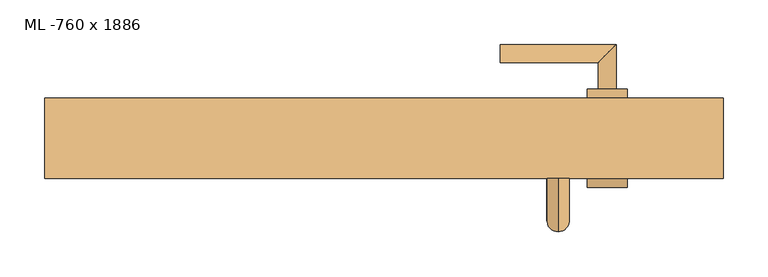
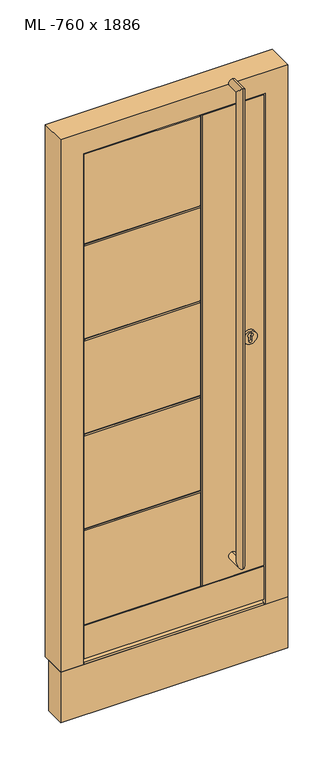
"""IFC4 building model written with IfcOpenShell, lengths in millimetres: door geometry, TU DF 1 - Haustüre : ML -760 x 1886."""

from ifc_helpers import new_model, si_unit, point, frame, frame_2d, origin, place, context, project, spatial, polyline, circle_curve, ellipse_curve, trimmed, segment, composite_curve, outline, extrude, faceted_brep, source, transform, mapped, element, save
from ifc_brep_helpers import plane_surface, cylinder_surface, revolved_surface, advanced_brep


def ml_760_x_1886_faf6ffda(model_context):
    return source(origin(), model_context, "Body", "SolidModel", [
        advanced_brep(
        [(195.0, -230.0, 1875.0), (195.0, -230.0, 1900.0), (195.0, -230.0, 225.0), (195.0, -230.0, 200.0), (195.0, -265.0, 225.0), (195.0, -290.0, 200.0), (195.0, -290.0, 1900.0), (195.0, -265.0, 1875.0)],
        [
            (0, 1, circle_curve(frame((195.0, -230.0, 1887.5), z_axis=(0.0, 1.0, 0.0), x_axis=(0.0, 0.0, 1.0)), 12.5)),
            (1, 0, circle_curve(frame((195.0, -230.0, 1887.5), z_axis=(0.0, 1.0, 0.0), x_axis=(0.0, 0.0, 1.0)), 12.5)),
            (2, 3, circle_curve(frame((195.0, -230.0, 212.5), z_axis=(0.0, 1.0, 0.0), x_axis=(0.0, 0.0, -1.0)), 12.5)),
            (3, 2, circle_curve(frame((195.0, -230.0, 212.5), z_axis=(0.0, 1.0, 0.0), x_axis=(0.0, 0.0, -1.0)), 12.5)),
            (4, 5, ellipse_curve(frame((195.0, -277.5, 212.5), z_axis=(0.0, 0.7071067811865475, -0.7071067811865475), x_axis=(0.0, -0.7071067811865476, -0.7071067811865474)), 17.6776695, 12.5)),
            (5, 3),
            (2, 4),
            (5, 4, ellipse_curve(frame((195.0, -277.5, 212.5), z_axis=(0.0, 0.7071067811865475, -0.7071067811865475), x_axis=(0.0, -0.7071067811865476, -0.7071067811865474)), 17.6776695, 12.5)),
            (6, 7, ellipse_curve(frame((195.0, -277.5, 1887.5), z_axis=(0.0, -0.7071067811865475, -0.7071067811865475), x_axis=(0.0, -0.7071067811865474, 0.7071067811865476)), 17.6776695, 12.5)),
            (7, 4),
            (5, 6),
            (7, 6, ellipse_curve(frame((195.0, -277.5, 1887.5), z_axis=(0.0, -0.7071067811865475, -0.7071067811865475), x_axis=(0.0, -0.7071067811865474, 0.7071067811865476)), 17.6776695, 12.5)),
            (0, 7),
            (6, 1),
        ],
        [
            plane_surface(frame((195.0, -230.0, 1900.0), z_axis=(0.0, 1.0, 0.0), x_axis=(-1.0, 0.0, 0.0))),
            plane_surface(frame((195.0, -230.0, 200.0), z_axis=(0.0, 1.0, 0.0), x_axis=(-1.0, 0.0, 0.0))),
            cylinder_surface(frame((195.0, -290.0, 212.5), z_axis=(0.0, -1.0, 0.0), x_axis=(0.0, 0.0, -1.0)), 12.5),
            cylinder_surface(frame((195.0, -277.5, 1900.0), z_axis=(0.0, 0.0, 1.0), x_axis=(0.0, -1.0, 0.0)), 12.5),
            cylinder_surface(frame((195.0, -230.0, 1887.5), z_axis=(0.0, 1.0, 0.0), x_axis=(0.0, 0.0, 1.0)), 12.5),
        ],
        [
            (0, [[1, 2]]),
            (1, [[3, 4]]),
            (2, [[5, 6, -3, 7]]),
            (2, [[8, -7, -4, -6]]),
            (3, [[9, 10, -8, 11]]),
            (3, [[12, -11, -5, -10]]),
            (4, [[-1, 13, -9, 14]]),
            (4, [[-2, -14, -12, -13]]),
        ],
    ),
        advanced_brep(
        [(272.5, -230.0, 970.0), (227.5, -230.0, 970.0), (272.5, -240.0, 970.0), (227.5, -240.0, 970.0), (255.0, -240.0, 958.5), (245.0, -240.0, 958.5), (245.0, -240.0, 971.1261365), (255.0, -240.0, 971.1261365), (255.0, -232.0, 971.1261365), (255.0, -232.0, 958.5), (245.0, -232.0, 971.1261365), (245.0, -232.0, 958.5)],
        [
            (0, 1, circle_curve(frame((250.0, -230.0, 970.0), z_axis=(0.0, 1.0, 0.0), x_axis=(-1.0, 0.0, 0.0)), 22.5)),
            (1, 0, circle_curve(frame((250.0, -230.0, 970.0), z_axis=(0.0, 1.0, 0.0), x_axis=(-1.0, 0.0, 0.0)), 22.5)),
            (2, 3, circle_curve(frame((250.0, -240.0, 970.0), z_axis=(0.0, -1.0, 0.0), x_axis=(-1.0, 0.0, 0.0)), 22.5)),
            (3, 2, circle_curve(frame((250.0, -240.0, 970.0), z_axis=(0.0, -1.0, 0.0), x_axis=(-1.0, 0.0, 0.0)), 22.5)),
            (4, 5, circle_curve(frame((250.0, -240.0, 958.5), z_axis=(0.0, 1.0, 0.0), x_axis=(-1.0, 0.0, 0.0)), 5.0)),
            (5, 6),
            (6, 7, circle_curve(frame((250.0, -240.0, 978.0), z_axis=(0.0, 1.0, 0.0), x_axis=(-1.0, 0.0, 0.0)), 8.5)),
            (7, 4),
            (0, 2),
            (3, 1),
            (7, 8),
            (8, 9),
            (9, 4),
            (6, 10),
            (10, 8, circle_curve(frame((250.0, -232.0, 978.0), z_axis=(0.0, 1.0, 0.0), x_axis=(-1.0, 0.0, 0.0)), 8.5)),
            (5, 11),
            (11, 10),
            (9, 11, circle_curve(frame((250.0, -232.0, 958.5), z_axis=(0.0, 1.0, 0.0), x_axis=(-1.0, 0.0, 0.0)), 5.0)),
        ],
        [
            plane_surface(frame((227.5, -230.0, 970.0), z_axis=(0.0, 1.0, 0.0), x_axis=(0.0, 0.0, 1.0))),
            plane_surface(frame((227.5, -240.0, 970.0), z_axis=(0.0, -1.0, 0.0), x_axis=(0.0, 0.0, -1.0))),
            cylinder_surface(frame((250.0, -240.0, 970.0), z_axis=(0.0, 1.0, 0.0), x_axis=(-1.0, 0.0, 0.0)), 22.5),
            plane_surface(frame((255.0, -230.0, 958.5), z_axis=(-1.0, 0.0, 0.0), x_axis=(0.0, -1.0, 0.0))),
            revolved_surface(polyline([(241.5, -240.0, 978.0), (241.5, -232.0, 978.0)]), (250.0, -230.0, 978.0), (0.0, -1.0, 0.0)),
            plane_surface(frame((245.0, -230.0, 971.1261365), z_axis=(1.0, 0.0, 0.0), x_axis=(0.0, -1.0, 0.0))),
            revolved_surface(polyline([(245.0, -240.0, 958.5), (245.0, -232.0, 958.5)]), (250.0, -230.0, 958.5), (0.0, -1.0, 0.0)),
            plane_surface(frame((241.5, -232.0, 978.0), z_axis=(0.0, -1.0, 0.0), x_axis=(0.0, 0.0, -1.0))),
        ],
        [
            (0, [[1, 2]]),
            (1, [[3, 4], [5, 6, 7, 8]]),
            (2, [[-1, 9, -4, 10]]),
            (2, [[-2, -10, -3, -9]]),
            (3, [[-8, 11, 12, 13]]),
            (4, [[-7, 14, 15, -11]]),
            (5, [[-6, 16, 17, -14]]),
            (6, [[-5, -13, 18, -16]]),
            (7, [[-12, -15, -17, -18]]),
        ],
    ),
        advanced_brep(
        [(87.0, -140.0, 480.2), (-331.0, -140.0, 480.2), (-331.0, -140.0, 808.4), (87.0, -140.0, 808.4), (87.0, -140.0, 816.4), (-331.0, -140.0, 816.4), (-331.0, -140.0, 1144.6), (87.0, -140.0, 1144.6), (331.0, -140.0, 1836.0), (331.0, -140.0, 8.0), (95.0, -140.0, 8.0), (95.0, -140.0, 1836.0), (87.0, -140.0, 1152.6), (-331.0, -140.0, 1152.6), (-331.0, -140.0, 1480.8), (87.0, -140.0, 1480.8), (-331.0, -140.0, 8.0), (-331.0, -140.0, 136.0), (87.0, -140.0, 136.0), (87.0, -140.0, 8.0), (-331.0, -140.0, 144.0), (-331.0, -140.0, 472.2), (87.0, -140.0, 472.2), (87.0, -140.0, 144.0), (-331.0, -140.0, 1836.0), (87.0, -140.0, 1836.0), (87.0, -140.0, 1488.8), (-331.0, -140.0, 1488.8), (331.0, -160.0, 1836.0), (331.0, -160.0, 8.0), (-331.0, -160.0, 1836.0), (-331.0, -160.0, 8.0), (-316.0, -160.0, 1821.0), (316.0, -160.0, 1821.0), (316.0, -160.0, 20.0), (-316.0, -160.0, 20.0), (316.0, -210.0, 1821.0), (316.0, -210.0, 20.0), (-316.0, -210.0, 1821.0), (-316.0, -210.0, 20.0), (-301.0, -210.0, 1806.0), (301.0, -210.0, 1806.0), (301.0, -210.0, 140.0), (-301.0, -210.0, 140.0), (301.0, -230.0, 1806.0), (301.0, -230.0, 140.0), (-301.0, -230.0, 480.2), (87.0, -230.0, 480.2), (87.0, -230.0, 808.4), (-301.0, -230.0, 808.4), (-301.0, -230.0, 816.4), (87.0, -230.0, 816.4), (87.0, -230.0, 1144.6), (-301.0, -230.0, 1144.6), (-301.0, -230.0, 1152.6), (87.0, -230.0, 1152.6), (87.0, -230.0, 1480.8), (-301.0, -230.0, 1480.8), (95.0, -230.0, 1806.0), (95.0, -230.0, 140.0), (-301.0, -230.0, 472.2), (-301.0, -230.0, 140.0), (87.0, -230.0, 140.0), (87.0, -230.0, 472.2), (87.0, -230.0, 1806.0), (-301.0, -230.0, 1806.0), (-301.0, -230.0, 1488.8), (87.0, -230.0, 1488.8), (-301.0, -226.0, 476.2), (-301.0, -226.0, 812.4), (-301.0, -226.0, 1148.6), (-301.0, -226.0, 1484.8), (-331.0, -144.0, 1484.8), (-331.0, -144.0, 1148.6), (-331.0, -144.0, 812.4), (-331.0, -144.0, 476.2), (-331.0, -144.0, 140.0), (91.0, -144.0, 1836.0), (91.0, -226.0, 1806.0), (91.0, -144.0, 8.0), (91.0, -226.0, 140.0), (91.0, -226.0, 476.2), (91.0, -144.0, 476.2), (91.0, -144.0, 140.0), (91.0, -226.0, 1484.8), (91.0, -226.0, 1148.6), (91.0, -226.0, 812.4), (91.0, -144.0, 812.4), (91.0, -144.0, 1148.6), (91.0, -144.0, 1484.8)],
        [
            (0, 1),
            (1, 2),
            (2, 3),
            (3, 0),
            (4, 5),
            (5, 6),
            (6, 7),
            (7, 4),
            (8, 9),
            (9, 10),
            (10, 11),
            (11, 8),
            (12, 13),
            (13, 14),
            (14, 15),
            (15, 12),
            (16, 17),
            (17, 18),
            (18, 19),
            (19, 16),
            (20, 21),
            (21, 22),
            (22, 23),
            (23, 20),
            (24, 25),
            (25, 26),
            (26, 27),
            (27, 24),
            (8, 28),
            (28, 29),
            (29, 9),
            (28, 30),
            (30, 31),
            (31, 29),
            (32, 33),
            (33, 34),
            (34, 35),
            (35, 32),
            (33, 36),
            (36, 37),
            (37, 34),
            (36, 38),
            (38, 39),
            (39, 37),
            (40, 41),
            (41, 42),
            (42, 43),
            (43, 40),
            (41, 44),
            (44, 45),
            (45, 42),
            (46, 47),
            (47, 48),
            (48, 49),
            (49, 46),
            (50, 51),
            (51, 52),
            (52, 53),
            (53, 50),
            (54, 55),
            (55, 56),
            (56, 57),
            (57, 54),
            (44, 58),
            (58, 59),
            (59, 45),
            (60, 61),
            (61, 62),
            (62, 63),
            (63, 60),
            (64, 65),
            (65, 66),
            (66, 67),
            (67, 64),
            (65, 40),
            (43, 61),
            (60, 68, circle_curve(frame((-301.0, -226.0, 472.2), z_axis=(-1.0, 0.0, 0.0), x_axis=(0.0, -1.0, 0.0)), 4.0)),
            (68, 46, circle_curve(frame((-301.0, -226.0, 480.2), z_axis=(-1.0, 0.0, 0.0), x_axis=(0.0, -1.0, 0.0)), 4.0)),
            (49, 69, circle_curve(frame((-301.0, -226.0, 808.4), z_axis=(-1.0, 0.0, 0.0), x_axis=(0.0, -1.0, 0.0)), 4.0)),
            (69, 50, circle_curve(frame((-301.0, -226.0, 816.4), z_axis=(-1.0, 0.0, 0.0), x_axis=(0.0, -1.0, 0.0)), 4.0)),
            (53, 70, circle_curve(frame((-301.0, -226.0, 1144.6), z_axis=(-1.0, 0.0, 0.0), x_axis=(0.0, -1.0, 0.0)), 4.0)),
            (70, 54, circle_curve(frame((-301.0, -226.0, 1152.6), z_axis=(-1.0, 0.0, 0.0), x_axis=(0.0, -1.0, 0.0)), 4.0)),
            (57, 71, circle_curve(frame((-301.0, -226.0, 1480.8), z_axis=(-1.0, 0.0, 0.0), x_axis=(0.0, -1.0, 0.0)), 4.0)),
            (71, 66, circle_curve(frame((-301.0, -226.0, 1488.8), z_axis=(-1.0, 0.0, 0.0), x_axis=(0.0, -1.0, 0.0)), 4.0)),
            (38, 32),
            (35, 39),
            (30, 24),
            (27, 72, circle_curve(frame((-331.0, -144.0, 1488.8), z_axis=(-1.0, 0.0, 0.0), x_axis=(0.0, 1.0, 0.0)), 4.0)),
            (72, 14, circle_curve(frame((-331.0, -144.0, 1480.8), z_axis=(-1.0, 0.0, 0.0), x_axis=(0.0, 1.0, 0.0)), 4.0)),
            (13, 73, circle_curve(frame((-331.0, -144.0, 1152.6), z_axis=(-1.0, 0.0, 0.0), x_axis=(0.0, 1.0, 0.0)), 4.0)),
            (73, 6, circle_curve(frame((-331.0, -144.0, 1144.6), z_axis=(-1.0, 0.0, 0.0), x_axis=(0.0, 1.0, 0.0)), 4.0)),
            (5, 74, circle_curve(frame((-331.0, -144.0, 816.4), z_axis=(-1.0, 0.0, 0.0), x_axis=(0.0, 1.0, 0.0)), 4.0)),
            (74, 2, circle_curve(frame((-331.0, -144.0, 808.4), z_axis=(-1.0, 0.0, 0.0), x_axis=(0.0, 1.0, 0.0)), 4.0)),
            (1, 75, circle_curve(frame((-331.0, -144.0, 480.2), z_axis=(-1.0, 0.0, 0.0), x_axis=(0.0, 1.0, 0.0)), 4.0)),
            (75, 21, circle_curve(frame((-331.0, -144.0, 472.2), z_axis=(-1.0, 0.0, 0.0), x_axis=(0.0, 1.0, 0.0)), 4.0)),
            (20, 76, circle_curve(frame((-331.0, -144.0, 144.0), z_axis=(-1.0, 0.0, 0.0), x_axis=(0.0, 1.0, 0.0)), 4.0)),
            (76, 17, circle_curve(frame((-331.0, -144.0, 136.0), z_axis=(-1.0, 0.0, 0.0), x_axis=(0.0, 1.0, 0.0)), 4.0)),
            (16, 31),
            (11, 77, circle_curve(frame((95.0, -144.0, 1836.0), z_axis=(0.0, 0.0, 1.0), x_axis=(0.0, 1.0, 0.0)), 4.0)),
            (77, 25, circle_curve(frame((87.0, -144.0, 1836.0), z_axis=(0.0, 0.0, 1.0), x_axis=(0.0, 1.0, 0.0)), 4.0)),
            (64, 78, circle_curve(frame((87.0, -226.0, 1806.0), z_axis=(0.0, 0.0, 1.0), x_axis=(0.0, -1.0, 0.0)), 4.0)),
            (78, 58, circle_curve(frame((95.0, -226.0, 1806.0), z_axis=(0.0, 0.0, 1.0), x_axis=(0.0, -1.0, 0.0)), 4.0)),
            (19, 79, circle_curve(frame((87.0, -144.0, 8.0), z_axis=(0.0, 0.0, -1.0), x_axis=(0.0, 1.0, 0.0)), 4.0)),
            (79, 10, circle_curve(frame((95.0, -144.0, 8.0), z_axis=(0.0, 0.0, -1.0), x_axis=(0.0, 1.0, 0.0)), 4.0)),
            (59, 80, circle_curve(frame((95.0, -226.0, 140.0), z_axis=(0.0, 0.0, -1.0), x_axis=(0.0, -1.0, 0.0)), 4.0)),
            (80, 62, circle_curve(frame((87.0, -226.0, 140.0), z_axis=(0.0, 0.0, -1.0), x_axis=(0.0, -1.0, 0.0)), 4.0)),
            (81, 68),
            (63, 81, ellipse_curve(frame((87.0, -226.0, 472.2), z_axis=(-0.7071067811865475, 0.0, 0.7071067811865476), x_axis=(-0.7071067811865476, 0.0, -0.7071067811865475)), 5.6568542, 4.0)),
            (81, 47, ellipse_curve(frame((87.0, -226.0, 480.2), z_axis=(-0.7071067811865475, 0.0, -0.7071067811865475), x_axis=(-0.7071067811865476, 0.0, 0.7071067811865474)), 5.6568542, 4.0)),
            (75, 82),
            (82, 22, ellipse_curve(frame((87.0, -144.0, 472.2), z_axis=(-0.7071067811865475, 0.0, 0.7071067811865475), x_axis=(0.7071067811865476, 0.0, 0.7071067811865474)), 5.6568542, 4.0)),
            (0, 82, ellipse_curve(frame((87.0, -144.0, 480.2), z_axis=(-0.7071067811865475, 0.0, -0.7071067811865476), x_axis=(0.7071067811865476, 0.0, -0.7071067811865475)), 5.6568542, 4.0)),
            (76, 83),
            (83, 18, ellipse_curve(frame((87.0, -144.0, 136.0), z_axis=(-0.7071067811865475, 0.0, 0.7071067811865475), x_axis=(-0.7071067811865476, 0.0, -0.7071067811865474)), 5.6568542, 4.0)),
            (23, 83, ellipse_curve(frame((87.0, -144.0, 144.0), z_axis=(-0.7071067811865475, 0.0, -0.7071067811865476), x_axis=(-0.7071067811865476, 0.0, 0.7071067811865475)), 5.6568542, 4.0)),
            (81, 80),
            (78, 84),
            (84, 85),
            (85, 86),
            (86, 81),
            (67, 84, ellipse_curve(frame((87.0, -226.0, 1488.8), z_axis=(0.7071067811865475, 0.0, 0.7071067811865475), x_axis=(-0.7071067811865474, 0.0, 0.7071067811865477)), 5.6568542, 4.0)),
            (86, 48, ellipse_curve(frame((87.0, -226.0, 808.4), z_axis=(0.7071067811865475, 0.0, -0.7071067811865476), x_axis=(0.7071067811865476, 0.0, 0.7071067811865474)), 5.6568542, 4.0)),
            (51, 86, ellipse_curve(frame((87.0, -226.0, 816.4), z_axis=(0.7071067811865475, 0.0, 0.7071067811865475), x_axis=(-0.7071067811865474, 0.0, 0.7071067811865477)), 5.6568542, 4.0)),
            (85, 52, ellipse_curve(frame((87.0, -226.0, 1144.6), z_axis=(0.7071067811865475, 0.0, -0.7071067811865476), x_axis=(0.7071067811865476, 0.0, 0.7071067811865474)), 5.6568542, 4.0)),
            (55, 85, ellipse_curve(frame((87.0, -226.0, 1152.6), z_axis=(0.7071067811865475, 0.0, 0.7071067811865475), x_axis=(-0.7071067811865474, 0.0, 0.7071067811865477)), 5.6568542, 4.0)),
            (84, 56, ellipse_curve(frame((87.0, -226.0, 1480.8), z_axis=(0.7071067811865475, 0.0, -0.7071067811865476), x_axis=(0.7071067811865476, 0.0, 0.7071067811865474)), 5.6568542, 4.0)),
            (86, 69),
            (83, 82),
            (82, 87),
            (87, 88),
            (88, 89),
            (89, 77),
            (79, 83),
            (89, 26, ellipse_curve(frame((87.0, -144.0, 1488.8), z_axis=(0.7071067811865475, 0.0, 0.7071067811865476), x_axis=(0.7071067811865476, 0.0, -0.7071067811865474)), 5.6568542, 4.0)),
            (3, 87, ellipse_curve(frame((87.0, -144.0, 808.4), z_axis=(0.7071067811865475, 0.0, -0.7071067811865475), x_axis=(-0.7071067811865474, 0.0, -0.7071067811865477)), 5.6568542, 4.0)),
            (87, 4, ellipse_curve(frame((87.0, -144.0, 816.4), z_axis=(0.7071067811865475, 0.0, 0.7071067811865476), x_axis=(0.7071067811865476, 0.0, -0.7071067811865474)), 5.6568542, 4.0)),
            (7, 88, ellipse_curve(frame((87.0, -144.0, 1144.6), z_axis=(0.7071067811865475, 0.0, -0.7071067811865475), x_axis=(-0.7071067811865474, 0.0, -0.7071067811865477)), 5.6568542, 4.0)),
            (88, 12, ellipse_curve(frame((87.0, -144.0, 1152.6), z_axis=(0.7071067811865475, 0.0, 0.7071067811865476), x_axis=(0.7071067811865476, 0.0, -0.7071067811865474)), 5.6568542, 4.0)),
            (15, 89, ellipse_curve(frame((87.0, -144.0, 1480.8), z_axis=(0.7071067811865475, 0.0, -0.7071067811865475), x_axis=(-0.7071067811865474, 0.0, -0.7071067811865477)), 5.6568542, 4.0)),
            (74, 87),
            (73, 88),
            (85, 70),
            (72, 89),
            (84, 71),
        ],
        [
            plane_surface(frame((331.0, -140.0, 1836.0), z_axis=(0.0, 1.0, 0.0), x_axis=(0.0, 0.0, -1.0))),
            plane_surface(frame((331.0, -230.0, 1836.0), z_axis=(1.0, 0.0, 0.0), x_axis=(0.0, 0.0, -1.0))),
            plane_surface(frame((316.0, -160.0, 0.0), z_axis=(0.0, -1.0, 0.0), x_axis=(0.0, 0.0, 1.0))),
            plane_surface(frame((316.0, -210.0, 0.0), z_axis=(1.0, 0.0, 0.0), x_axis=(0.0, 0.0, 1.0))),
            plane_surface(frame((301.0, -210.0, 0.0), z_axis=(0.0, -1.0, 0.0), x_axis=(0.0, 0.0, 1.0))),
            plane_surface(frame((301.0, -230.0, 0.0), z_axis=(1.0, 0.0, 0.0), x_axis=(0.0, 0.0, 1.0))),
            plane_surface(frame((-331.0, -230.0, 1836.0), z_axis=(0.0, -1.0, 0.0), x_axis=(0.0, 0.0, -1.0))),
            plane_surface(frame((-301.0, -230.0, 1806.0), z_axis=(-1.0, 0.0, 0.0), x_axis=(0.0, 0.0, -1.0))),
            plane_surface(frame((-316.0, -210.0, 1821.0), z_axis=(-1.0, 0.0, 0.0), x_axis=(0.0, 0.0, -1.0))),
            plane_surface(frame((-331.0, -140.0, 1836.0), z_axis=(-1.0, 0.0, 0.0), x_axis=(0.0, 0.0, -1.0))),
            plane_surface(frame((331.0, -230.0, 1836.0), z_axis=(0.0, 0.0, 1.0), x_axis=(1.0, 0.0, 0.0))),
            plane_surface(frame((301.0, -230.0, 1806.0), z_axis=(0.0, 0.0, 1.0), x_axis=(-1.0, 0.0, 0.0))),
            plane_surface(frame((316.0, -210.0, 1821.0), z_axis=(0.0, 0.0, 1.0), x_axis=(-1.0, 0.0, 0.0))),
            plane_surface(frame((-331.0, -230.0, 20.0), z_axis=(0.0, 0.0, -1.0), x_axis=(1.0, 0.0, 0.0))),
            plane_surface(frame((-331.0, -160.0, 8.0), z_axis=(0.0, 0.0, -1.0), x_axis=(1.0, 0.0, 0.0))),
            plane_surface(frame((-331.0, -230.0, 140.0), z_axis=(0.0, 0.0, -1.0), x_axis=(1.0, 0.0, 0.0))),
            cylinder_surface(frame((91.0, -226.0, 472.2), z_axis=(-1.0, 0.0, 0.0), x_axis=(0.0, -1.0, 0.0)), 4.0),
            cylinder_surface(frame((91.0, -226.0, 480.2), z_axis=(-1.0, 0.0, 0.0), x_axis=(0.0, -1.0, 0.0)), 4.0),
            cylinder_surface(frame((-371.0, -144.0, 472.2), z_axis=(1.0, 0.0, 0.0), x_axis=(0.0, 1.0, 0.0)), 4.0),
            cylinder_surface(frame((-371.0, -144.0, 480.2), z_axis=(1.0, 0.0, 0.0), x_axis=(0.0, 1.0, 0.0)), 4.0),
            cylinder_surface(frame((91.0, -144.0, 136.0), z_axis=(-1.0, 0.0, 0.0), x_axis=(0.0, 1.0, 0.0)), 4.0),
            cylinder_surface(frame((91.0, -144.0, 144.0), z_axis=(-1.0, 0.0, 0.0), x_axis=(0.0, 1.0, 0.0)), 4.0),
            cylinder_surface(frame((95.0, -226.0, -10.0), z_axis=(0.0, 0.0, 1.0), x_axis=(0.0, -1.0, 0.0)), 4.0),
            cylinder_surface(frame((87.0, -226.0, -10.0), z_axis=(0.0, 0.0, 1.0), x_axis=(0.0, -1.0, 0.0)), 4.0),
            cylinder_surface(frame((91.0, -226.0, 808.4), z_axis=(-1.0, 0.0, 0.0), x_axis=(0.0, -1.0, 0.0)), 4.0),
            cylinder_surface(frame((91.0, -226.0, 816.4), z_axis=(-1.0, 0.0, 0.0), x_axis=(0.0, -1.0, 0.0)), 4.0),
            cylinder_surface(frame((95.0, -144.0, 1846.0), z_axis=(0.0, 0.0, -1.0), x_axis=(0.0, 1.0, 0.0)), 4.0),
            cylinder_surface(frame((87.0, -144.0, 1846.0), z_axis=(0.0, 0.0, -1.0), x_axis=(0.0, 1.0, 0.0)), 4.0),
            cylinder_surface(frame((-371.0, -144.0, 808.4), z_axis=(1.0, 0.0, 0.0), x_axis=(0.0, 1.0, 0.0)), 4.0),
            cylinder_surface(frame((-371.0, -144.0, 816.4), z_axis=(1.0, 0.0, 0.0), x_axis=(0.0, 1.0, 0.0)), 4.0),
            cylinder_surface(frame((-371.0, -144.0, 1144.6), z_axis=(1.0, 0.0, 0.0), x_axis=(0.0, 1.0, 0.0)), 4.0),
            cylinder_surface(frame((-371.0, -144.0, 1152.6), z_axis=(1.0, 0.0, 0.0), x_axis=(0.0, 1.0, 0.0)), 4.0),
            cylinder_surface(frame((91.0, -226.0, 1144.6), z_axis=(-1.0, 0.0, 0.0), x_axis=(0.0, -1.0, 0.0)), 4.0),
            cylinder_surface(frame((91.0, -226.0, 1152.6), z_axis=(-1.0, 0.0, 0.0), x_axis=(0.0, -1.0, 0.0)), 4.0),
            cylinder_surface(frame((-371.0, -144.0, 1480.8), z_axis=(1.0, 0.0, 0.0), x_axis=(0.0, 1.0, 0.0)), 4.0),
            cylinder_surface(frame((-371.0, -144.0, 1488.8), z_axis=(1.0, 0.0, 0.0), x_axis=(0.0, 1.0, 0.0)), 4.0),
            cylinder_surface(frame((91.0, -226.0, 1480.8), z_axis=(-1.0, 0.0, 0.0), x_axis=(0.0, -1.0, 0.0)), 4.0),
            cylinder_surface(frame((91.0, -226.0, 1488.8), z_axis=(-1.0, 0.0, 0.0), x_axis=(0.0, -1.0, 0.0)), 4.0),
        ],
        [
            (0, [[1, 2, 3, 4]]),
            (0, [[5, 6, 7, 8]]),
            (0, [[9, 10, 11, 12]]),
            (0, [[13, 14, 15, 16]]),
            (0, [[17, 18, 19, 20]]),
            (0, [[21, 22, 23, 24]]),
            (0, [[25, 26, 27, 28]]),
            (1, [[29, 30, 31, -9]]),
            (2, [[32, 33, 34, -30], [35, 36, 37, 38]]),
            (3, [[39, 40, 41, -36]]),
            (4, [[42, 43, 44, -40], [45, 46, 47, 48]]),
            (5, [[49, 50, 51, -46]]),
            (6, [[52, 53, 54, 55]]),
            (6, [[56, 57, 58, 59]]),
            (6, [[60, 61, 62, 63]]),
            (6, [[-50, 64, 65, 66]]),
            (6, [[67, 68, 69, 70]]),
            (6, [[71, 72, 73, 74]]),
            (7, [[75, -48, 76, -67, 77, 78, -55, 79, 80, -59, 81, 82, -63, 83, 84, -72]]),
            (8, [[85, -38, 86, -43]]),
            (9, [[87, -28, 88, 89, -14, 90, 91, -6, 92, 93, -2, 94, 95, -21, 96, 97, -17, 98, -33]]),
            (10, [[-29, -12, 99, 100, -25, -87, -32]]),
            (11, [[-49, -45, -75, -71, 101, 102, -64]]),
            (12, [[-42, -39, -35, -85]]),
            (13, [[-37, -41, -44, -86]]),
            (14, [[-31, -34, -98, -20, 103, 104, -10]]),
            (15, [[-47, -51, -66, 105, 106, -68, -76]]),
            (16, [[107, -77, -70, 108]]),
            (17, [[-107, 109, -52, -78]]),
            (18, [[110, 111, -22, -95]]),
            (19, [[-110, -94, -1, 112]]),
            (20, [[113, 114, -18, -97]]),
            (21, [[-113, -96, -24, 115]]),
            (22, [[116, -105, -65, -102, 117, 118, 119, 120]]),
            (23, [[-101, -74, 121, -117]]),
            (23, [[-109, -120, 122, -53]]),
            (23, [[-116, -108, -69, -106]]),
            (23, [[123, -119, 124, -57]]),
            (23, [[125, -118, 126, -61]]),
            (24, [[127, -79, -54, -122]]),
            (25, [[-127, -123, -56, -80]]),
            (26, [[128, 129, 130, 131, 132, -99, -11, -104, 133]]),
            (27, [[-100, -132, 134, -26]]),
            (27, [[-112, -4, 135, -129]]),
            (27, [[-133, -103, -19, -114]]),
            (27, [[-128, -115, -23, -111]]),
            (27, [[136, -8, 137, -130]]),
            (27, [[138, -16, 139, -131]]),
            (28, [[140, -135, -3, -93]]),
            (29, [[-140, -92, -5, -136]]),
            (30, [[141, -137, -7, -91]]),
            (31, [[-141, -90, -13, -138]]),
            (32, [[142, -81, -58, -124]]),
            (33, [[-142, -125, -60, -82]]),
            (34, [[143, -139, -15, -89]]),
            (35, [[-143, -88, -27, -134]]),
            (36, [[144, -83, -62, -126]]),
            (37, [[-144, -121, -73, -84]]),
        ],
    ),
        extrude(outline(polyline([(-210.0, 140.0), (-210.0, 20.0), (-221.9609036, 20.0), (-221.9609036, 24.0), (-225.9609036, 24.0), (-225.9609036, 20.0), (-230.0, 20.0), (-230.0, 136.0), (-226.0, 136.0), (-226.0, 140.0), (-210.0, 140.0)])), frame((-301.0, 0.0, 0.0), z_axis=(1.0, 0.0, 0.0), x_axis=(0.0, 1.0, 0.0)), (0.0, 0.0, 1.0), 602.0),
        faceted_brep([(301.0, -210.0, 0.0), (301.0, -210.0, 9.0), (301.0, -230.0, 7.0), (301.0, -230.0, 0.0), (-301.0, -210.0, 0.0), (-301.0, -210.0, 9.0), (-316.0, -210.0, 9.0), (-316.0, -210.0, 0.0), (316.0, -210.0, 0.0), (316.0, -210.0, 9.0), (316.0, -160.0, 0.0), (316.0, -160.0, 15.0), (316.0, -180.0, 15.0), (316.0, -180.0, 12.0), (-301.0, -230.0, 0.0), (-301.0, -230.0, 7.0), (-316.0, -180.0, 12.0), (-316.0, -180.0, 15.0), (-316.0, -160.0, 15.0), (-316.0, -160.0, 0.0)], [[[0, 1, 2, 3]], [[4, 5, 6, 7]], [[1, 0, 8, 9]], [[9, 8, 10, 11, 12, 13]], [[5, 4, 14, 15]], [[7, 6, 16, 17, 18, 19]], [[18, 11, 10, 19]], [[19, 10, 8, 0, 3, 14, 4, 7]], [[14, 3, 2, 15]], [[11, 18, 17, 12]], [[15, 2, 1, 9, 13, 16, 6, 5]], [[12, 17, 16, 13]]]),
        advanced_brep(
        [(272.5, -140.0, 970.0), (227.5, -140.0, 970.0), (272.5, -130.0, 970.0), (227.5, -130.0, 970.0), (255.0, -130.0, 958.5), (255.0, -130.0, 971.1261365), (245.0, -130.0, 971.1261365), (245.0, -130.0, 958.5), (255.0, -138.0, 958.5), (255.0, -138.0, 971.1261365), (245.0, -138.0, 971.1261365), (245.0, -138.0, 958.5)],
        [
            (0, 1, circle_curve(frame((250.0, -140.0, 970.0), z_axis=(0.0, -1.0, 0.0), x_axis=(-1.0, 0.0, 0.0)), 22.5)),
            (1, 0, circle_curve(frame((250.0, -140.0, 970.0), z_axis=(0.0, -1.0, 0.0), x_axis=(-1.0, 0.0, 0.0)), 22.5)),
            (2, 3, circle_curve(frame((250.0, -130.0, 970.0), z_axis=(0.0, 1.0, 0.0), x_axis=(-1.0, 0.0, 0.0)), 22.5)),
            (3, 2, circle_curve(frame((250.0, -130.0, 970.0), z_axis=(0.0, 1.0, 0.0), x_axis=(-1.0, 0.0, 0.0)), 22.5)),
            (4, 5),
            (5, 6, circle_curve(frame((250.0, -130.0, 978.0), z_axis=(0.0, -1.0, 0.0), x_axis=(-1.0, 0.0, 0.0)), 8.5)),
            (6, 7),
            (7, 4, circle_curve(frame((250.0, -130.0, 958.5), z_axis=(0.0, -1.0, 0.0), x_axis=(-1.0, 0.0, 0.0)), 5.0)),
            (1, 3),
            (2, 0),
            (4, 8),
            (8, 9),
            (9, 5),
            (9, 10, circle_curve(frame((250.0, -138.0, 978.0), z_axis=(0.0, -1.0, 0.0), x_axis=(-1.0, 0.0, 0.0)), 8.5)),
            (10, 6),
            (10, 11),
            (11, 7),
            (11, 8, circle_curve(frame((250.0, -138.0, 958.5), z_axis=(0.0, -1.0, 0.0), x_axis=(-1.0, 0.0, 0.0)), 5.0)),
        ],
        [
            plane_surface(frame((227.5, -140.0, 970.0), z_axis=(0.0, -1.0, 0.0), x_axis=(0.0, 0.0, 1.0))),
            plane_surface(frame((227.5, -130.0, 970.0), z_axis=(0.0, 1.0, 0.0), x_axis=(0.0, 0.0, -1.0))),
            cylinder_surface(frame((250.0, -130.0, 970.0), z_axis=(0.0, -1.0, 0.0), x_axis=(-1.0, 0.0, 0.0)), 22.5),
            plane_surface(frame((255.0, -140.0, 958.5), z_axis=(-1.0, 0.0, 0.0), x_axis=(0.0, 1.0, 0.0))),
            revolved_surface(polyline([(241.5, -130.0, 978.0), (241.5, -138.0, 978.0)]), (250.0, -140.0, 978.0), (0.0, 1.0, 0.0)),
            plane_surface(frame((245.0, -140.0, 971.1261365), z_axis=(1.0, 0.0, 0.0), x_axis=(0.0, 1.0, 0.0))),
            revolved_surface(polyline([(245.0, -130.0, 958.5), (245.0, -138.0, 958.5)]), (250.0, -140.0, 958.5), (0.0, 1.0, 0.0)),
            plane_surface(frame((255.0, -138.0, 958.5), z_axis=(0.0, 1.0, 0.0), x_axis=(0.0, 0.0, 1.0))),
        ],
        [
            (0, [[1, 2]]),
            (1, [[3, 4], [5, 6, 7, 8]]),
            (2, [[9, -3, 10, -2]]),
            (2, [[-10, -4, -9, -1]]),
            (3, [[11, 12, 13, -5]]),
            (4, [[-13, 14, 15, -6]]),
            (5, [[-15, 16, 17, -7]]),
            (6, [[-17, 18, -11, -8]]),
            (7, [[-18, -16, -14, -12]]),
        ],
    ),
        advanced_brep(
        [(240.0, -130.0, 1050.0), (260.0, -130.0, 1050.0), (260.0, -80.0, 1050.0), (240.0, -100.0, 1050.0), (130.0, -100.0, 1050.0), (130.0, -80.0, 1050.0)],
        [
            (0, 1, circle_curve(frame((250.0, -130.0, 1050.0), z_axis=(0.0, -1.0, 0.0), x_axis=(1.0, 0.0, 0.0)), 10.0)),
            (1, 0, circle_curve(frame((250.0, -130.0, 1050.0), z_axis=(0.0, -1.0, 0.0), x_axis=(1.0, 0.0, 0.0)), 10.0)),
            (1, 2),
            (2, 3, ellipse_curve(frame((250.0, -90.0, 1050.0), z_axis=(0.7071067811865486, -0.7071067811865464, 0.0), x_axis=(-0.7071067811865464, -0.7071067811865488, 0.0)), 14.1421356, 10.0)),
            (3, 0),
            (3, 2, ellipse_curve(frame((250.0, -90.0, 1050.0), z_axis=(0.7071067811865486, -0.7071067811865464, 0.0), x_axis=(-0.7071067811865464, -0.7071067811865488, 0.0)), 14.1421356, 10.0)),
            (4, 5, circle_curve(frame((130.0, -90.0, 1050.0), z_axis=(-1.0, 0.0, 0.0), x_axis=(0.0, 1.0, 0.0)), 10.0)),
            (5, 4, circle_curve(frame((130.0, -90.0, 1050.0), z_axis=(-1.0, 0.0, 0.0), x_axis=(0.0, 1.0, 0.0)), 10.0)),
            (2, 5),
            (4, 3),
        ],
        [
            plane_surface(frame((250.0, -130.0, 1050.0), z_axis=(0.0, -1.0, 0.0), x_axis=(0.0, 0.0, 1.0))),
            cylinder_surface(frame((250.0, -130.0, 1050.0), z_axis=(0.0, -1.0, 0.0), x_axis=(1.0, 0.0, 0.0)), 10.0),
            plane_surface(frame((130.0, -90.0, 1050.0), z_axis=(-1.0, 0.0, 0.0), x_axis=(0.0, 0.0, 1.0))),
            cylinder_surface(frame((250.0, -90.0, 1050.0), z_axis=(1.0, 0.0, 0.0), x_axis=(0.0, 1.0, 0.0)), 10.0),
        ],
        [
            (0, [[1, 2]]),
            (1, [[3, 4, 5, -2]]),
            (1, [[-5, 6, -3, -1]]),
            (2, [[7, 8]]),
            (3, [[9, -7, 10, -4]]),
            (3, [[-10, -8, -9, -6]]),
        ],
    ),
        advanced_brep(
        [(240.0, -130.0, 1050.0), (260.0, -130.0, 1050.0), (260.0, -80.0, 1050.0), (240.0, -100.0, 1050.0), (130.0, -100.0, 1050.0), (130.0, -80.0, 1050.0)],
        [
            (0, 1, circle_curve(frame((250.0, -130.0, 1050.0), z_axis=(0.0, -1.0, 0.0), x_axis=(1.0, 0.0, 0.0)), 10.0)),
            (1, 0, circle_curve(frame((250.0, -130.0, 1050.0), z_axis=(0.0, -1.0, 0.0), x_axis=(1.0, 0.0, 0.0)), 10.0)),
            (1, 2),
            (2, 3, ellipse_curve(frame((250.0, -90.0, 1050.0), z_axis=(0.7071067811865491, -0.7071067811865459, 0.0), x_axis=(-0.7071067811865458, -0.7071067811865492, 0.0)), 14.1421356, 10.0)),
            (3, 0),
            (3, 2, ellipse_curve(frame((250.0, -90.0, 1050.0), z_axis=(0.7071067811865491, -0.7071067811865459, 0.0), x_axis=(-0.7071067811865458, -0.7071067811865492, 0.0)), 14.1421356, 10.0)),
            (4, 5, circle_curve(frame((130.0, -90.0, 1050.0), z_axis=(-1.0, 0.0, 0.0), x_axis=(0.0, 1.0, 0.0)), 10.0)),
            (5, 4, circle_curve(frame((130.0, -90.0, 1050.0), z_axis=(-1.0, 0.0, 0.0), x_axis=(0.0, 1.0, 0.0)), 10.0)),
            (2, 5),
            (4, 3),
        ],
        [
            plane_surface(frame((250.0, -130.0, 1050.0), z_axis=(0.0, -1.0, 0.0), x_axis=(0.0, 0.0, 1.0))),
            cylinder_surface(frame((250.0, -130.0, 1050.0), z_axis=(0.0, -1.0, 0.0), x_axis=(1.0, 0.0, 0.0)), 10.0),
            plane_surface(frame((130.0, -90.0, 1050.0), z_axis=(-1.0, 0.0, 0.0), x_axis=(0.0, 0.0, 1.0))),
            cylinder_surface(frame((250.0, -90.0, 1050.0), z_axis=(1.0, 0.0, 0.0), x_axis=(0.0, 1.0, 0.0)), 10.0),
        ],
        [
            (0, [[1, 2]]),
            (1, [[3, 4, 5, -2]]),
            (1, [[-5, 6, -3, -1]]),
            (2, [[7, 8]]),
            (3, [[9, -7, 10, -4]]),
            (3, [[-10, -8, -9, -6]]),
        ],
    ),
        extrude(outline(composite_curve([segment(trimmed(circle_curve(frame_2d((1050.0, 250.0)), 22.5), [point((1050.0, 272.5))], [point((1050.0, 227.5))], False, "CARTESIAN"), True, "CONTINUOUS"), segment(trimmed(circle_curve(frame_2d((1050.0, 250.0)), 22.5), [point((1050.0, 227.5))], [point((1050.0, 272.5))], False, "CARTESIAN"), True, "CONTINUOUS")], self_intersect=False)), frame((0.0, -140.0, 0.0), z_axis=(0.0, 1.0, 0.0), x_axis=(0.0, 0.0, 1.0)), (0.0, 0.0, 1.0), 10.0),
        faceted_brep([(-380.0, -140.0, 1885.0), (380.0, -140.0, 1885.0), (380.0, -140.0, 0.0), (335.0, -140.0, 0.0), (335.0, -140.0, 1840.0), (-335.0, -140.0, 1840.0), (-335.0, -140.0, 0.0), (-380.0, -140.0, 0.0), (-380.0, -230.0, 0.0), (-380.0, -230.0, 1885.0), (-335.0, -160.0, 0.0), (-320.0, -160.0, 0.0), (-320.0, -210.0, 0.0), (-305.0, -210.0, 0.0), (-305.0, -230.0, 0.0), (-335.0, -160.0, 1840.0), (335.0, -160.0, 1840.0), (335.0, -160.0, 0.0), (305.0, -230.0, 0.0), (305.0, -210.0, 0.0), (320.0, -210.0, 0.0), (320.0, -160.0, 0.0), (380.0, -230.0, 0.0), (380.0, -230.0, 1885.0), (-305.0, -230.0, 1810.0), (305.0, -230.0, 1810.0), (305.0, -210.0, 1810.0), (-305.0, -210.0, 1810.0), (320.0, -160.0, 1825.0), (-320.0, -160.0, 1825.0), (320.0, -210.0, 1825.0), (-320.0, -210.0, 1825.0)], [[[0, 1, 2, 3, 4, 5, 6, 7]], [[7, 8, 9, 0]], [[8, 7, 6, 10, 11, 12, 13, 14]], [[10, 6, 5, 15]], [[16, 4, 3, 17]], [[18, 19, 20, 21, 17, 3, 2, 22]], [[1, 23, 22, 2]], [[9, 8, 14, 24, 25, 18, 22, 23]], [[25, 26, 19, 18]], [[14, 13, 27, 24]], [[15, 16, 17, 21, 28, 29, 11, 10]], [[21, 20, 30, 28]], [[31, 30, 20, 19, 26, 27, 13, 12]], [[29, 31, 12, 11]], [[0, 9, 23, 1]], [[24, 27, 26, 25]], [[5, 4, 16, 15]], [[28, 30, 31, 29]]]),
        extrude(outline(polyline([(380.0, -230.0), (-380.0, -230.0), (-380.0, -160.0), (380.0, -160.0), (380.0, -230.0)])), frame((0.0, 0.0, -180.0), z_axis=(0.0, 0.0, 1.0), x_axis=(1.0, 0.0, 0.0)), (0.0, 0.0, 1.0), 180.0),
    ])


if __name__ == "__main__":
    model = new_model("IFC4")
    model_context = context("Model", 3, world=origin())
    ifc_project = project(units=[si_unit("LENGTHUNIT", "METRE", prefix="MILLI")], contexts=[model_context])
    site = spatial("IfcSite", under=ifc_project)
    building = spatial("IfcBuilding", under=site)
    placement = place(None, origin())
    ml_760_x_1886_shape = ml_760_x_1886_faf6ffda(model_context)
    element("IfcDoor", 1, ObjectType="TU DF 1 - Haustüre : ML -760 x 1886", at=placement, inside=building, context=model_context, shape_type="MappedRepresentation", body=[
        mapped(ml_760_x_1886_shape, transform((0.0, 0.0, 0.0), x_axis=(1.0, 0.0, 0.0), y_axis=(0.0, 1.0, 0.0), z_axis=(0.0, 0.0, 1.0))),
    ])
    save(model, "model.ifc")
